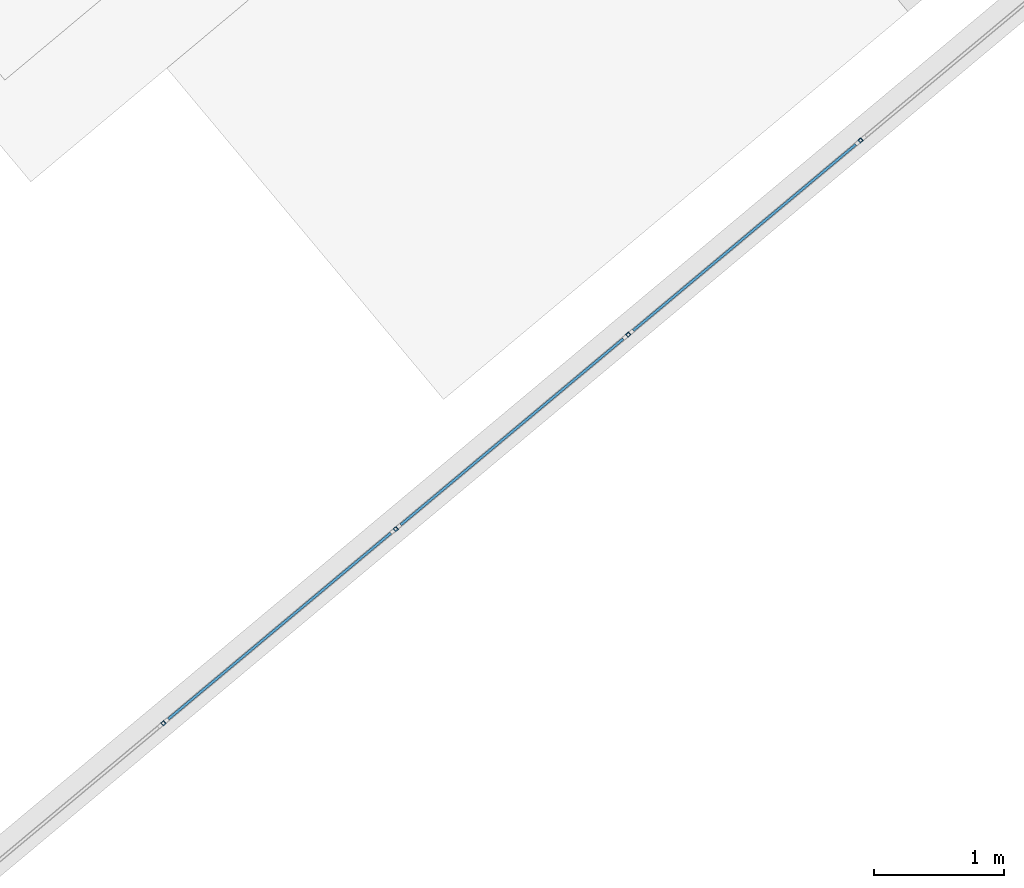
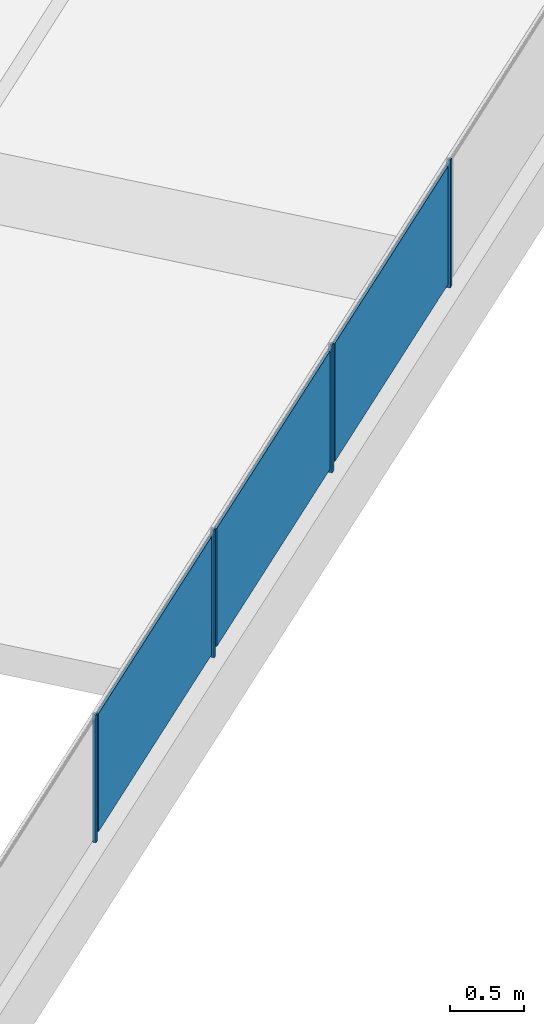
# One storey, part 22 of 67: 7 building element parts, 1 element without a shape of its own.
"""IFC4 building model written with IfcOpenShell, lengths in metres."""

from ifc_helpers import new_model, entity, si_unit, converted_unit, derived_unit, direction, frame, origin_with_axes, place, context, subcontext, project, spatial, polygons, material, type_object, element, aggregate, save


model = new_model("IFC4")

# Units and contexts
model_context = context("Model", 3, precision=1e-05, world=origin_with_axes(), true_north=direction((0.0, 1.0)))
body_context = subcontext(model_context, "Body", "Model", "MODEL_VIEW")
ifc_project = project(units=[si_unit("LENGTHUNIT", "METRE"), si_unit("AREAUNIT", "SQUARE_METRE"), si_unit("VOLUMEUNIT", "CUBIC_METRE"), converted_unit("PLANEANGLEUNIT", "DEGREE", entity("IfcPlaneAngleMeasure", 0.0174532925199), si_unit("PLANEANGLEUNIT", "RADIAN"), dimensions=[0, 0, 0, 0, 0, 0, 0]), converted_unit("TIMEUNIT", "Year", entity("IfcTimeMeasure", 31556926.0), si_unit("TIMEUNIT", "SECOND"), dimensions=[0, 0, 1, 0, 0, 0, 0]), si_unit("MASSUNIT", "GRAM", prefix="KILO"), si_unit("THERMODYNAMICTEMPERATUREUNIT", "DEGREE_CELSIUS"), si_unit("LUMINOUSINTENSITYUNIT", "LUMEN"), si_unit("ENERGYUNIT", "JOULE", prefix="MEGA"), derived_unit("THERMALCONDUCTANCEUNIT", [(si_unit("POWERUNIT", "WATT"), 1), (si_unit("LENGTHUNIT", "METRE"), -1), (si_unit("THERMODYNAMICTEMPERATUREUNIT", "KELVIN"), -1)]), derived_unit("SPECIFICHEATCAPACITYUNIT", [(si_unit("ENERGYUNIT", "JOULE"), 1), (si_unit("MASSUNIT", "GRAM", prefix="KILO"), -1), (si_unit("THERMODYNAMICTEMPERATUREUNIT", "KELVIN"), -1)]), derived_unit("MASSDENSITYUNIT", [(si_unit("MASSUNIT", "GRAM", prefix="KILO"), 1), (si_unit("VOLUMEUNIT", "CUBIC_METRE"), -1)])], contexts=[model_context])

# Site, building, storey
site_placement = place(None, frame((-0.00153261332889, -0.00661245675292, 0.0), z_axis=(0.0, 0.0, 1.0), x_axis=(1.0, 0.0, 0.0)))
site = spatial("IfcSite", under=ifc_project, at=site_placement, Name="Site", CompositionType="ELEMENT")
building_placement = place(site_placement, origin_with_axes())
building = spatial("IfcBuilding", under=site, at=building_placement, Name="Building", CompositionType="ELEMENT")
storey_placement = place(building_placement, frame((0.0, 0.0, -0.22), z_axis=(0.0, 0.0, 1.0), x_axis=(1.0, 0.0, 0.0)))
storey = spatial("IfcBuildingStorey", under=building, at=storey_placement, Name="EG", CompositionType="ELEMENT", Elevation=-0.22)

# Railing, building element parts
railing_type = type_object("IfcRailingType", Name="Geländerart", PredefinedType="NOTDEFINED")
railing_placement = place(storey_placement, frame((-12.1608341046, 23.557810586, 0.523948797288), z_axis=(0.0, 0.0, 1.0), x_axis=(1.0, 0.0, 0.0)))
railing = element("IfcRailing", 1, at=railing_placement, inside=storey, type_object=railing_type, Name="Geländer - 001", PredefinedType="NOTDEFINED")
ifc_material_1 = material(Name="Aluminium")
building_element_part_1_placement = place(railing_placement, origin_with_axes())
building_element_part_1 = element("IfcBuildingElementPart", 2, at=building_element_part_1_placement, material=ifc_material_1, Name="Aluminium", PredefinedType="NOTDEFINED", context=body_context, shape_type="Tessellation", body=[
    polygons([(13.9877905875, -21.9148453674, 0.0), (13.9685524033, -21.8918259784, 0.0), (13.9685524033, -21.8918259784, 1.06), (13.9877905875, -21.9148453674, 1.06), (13.9647711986, -21.9340835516, 0.0), (13.9455330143, -21.9110641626, 0.0), (13.9807476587, -21.9142151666, 0.0), (13.9679222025, -21.8988689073, 0.0), (13.9525759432, -21.9116943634, 0.0), (13.9654013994, -21.9270406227, 0.0), (13.9455330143, -21.9110641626, 1.06), (13.9647711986, -21.9340835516, 1.06), (13.9807476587, -21.9142151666, 1.06), (13.9654013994, -21.9270406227, 1.06), (13.9525759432, -21.9116943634, 1.06), (13.9679222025, -21.8988689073, 1.06)], [[[1, 2, 3, 4]], [[1, 5, 6, 2], [7, 8, 9, 10]], [[2, 6, 11, 3]], [[4, 3, 11, 12], [13, 14, 15, 16]], [[5, 1, 4, 12]], [[6, 5, 12, 11]], [[8, 7, 13, 16]], [[9, 8, 16, 15]], [[10, 9, 15, 14]], [[7, 10, 14, 13]]], closed=True),
])
ifc_material_2 = material(Name="Zaun")
building_element_part_2_placement = place(railing_placement, origin_with_axes())
building_element_part_2 = element("IfcBuildingElementPart", 3, at=building_element_part_2_placement, material=ifc_material_2, Name="Zaun", PredefinedType="NOTDEFINED", context=body_context, shape_type="Tessellation", body=[
    polygons([(15.7127951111, -20.4406118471, 0.05), (13.9986147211, -21.873217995, 0.05), (13.9986147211, -21.873217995, 1.03), (15.7127951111, -20.4406118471, 1.03), (14.0114401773, -21.8885642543, 0.05), (15.7256205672, -20.4559581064, 0.05), (14.0114401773, -21.8885642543, 1.03), (15.7256205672, -20.4559581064, 1.03)], [[[1, 2, 3, 4]], [[5, 2, 1, 6]], [[7, 3, 2, 5]], [[4, 3, 7, 8]], [[1, 4, 8, 6]], [[7, 5, 6, 8]]], closed=True),
])
building_element_part_3_placement = place(railing_placement, origin_with_axes())
building_element_part_3 = element("IfcBuildingElementPart", 4, at=building_element_part_3_placement, material=ifc_material_1, Name="Aluminium", PredefinedType="NOTDEFINED", context=body_context, shape_type="Tessellation", body=[
    polygons([(15.778702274, -20.4181119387, 0.0), (15.7594640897, -20.3950925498, 0.0), (15.7594640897, -20.3950925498, 1.06), (15.778702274, -20.4181119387, 1.06), (15.755682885, -20.437350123, 0.0), (15.7364447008, -20.414330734, 0.0), (15.7716593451, -20.4174817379, 0.0), (15.758833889, -20.4021354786, 0.0), (15.7434876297, -20.4149609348, 0.0), (15.7563130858, -20.4303071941, 0.0), (15.7364447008, -20.414330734, 1.06), (15.755682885, -20.437350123, 1.06), (15.7716593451, -20.4174817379, 1.06), (15.7563130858, -20.4303071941, 1.06), (15.7434876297, -20.4149609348, 1.06), (15.758833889, -20.4021354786, 1.06)], [[[1, 2, 3, 4]], [[1, 5, 6, 2], [7, 8, 9, 10]], [[2, 6, 11, 3]], [[4, 3, 11, 12], [13, 14, 15, 16]], [[5, 1, 4, 12]], [[6, 5, 12, 11]], [[8, 7, 13, 16]], [[9, 8, 16, 15]], [[10, 9, 15, 14]], [[7, 10, 14, 13]]], closed=True),
])
building_element_part_4_placement = place(railing_placement, origin_with_axes())
building_element_part_4 = element("IfcBuildingElementPart", 5, at=building_element_part_4_placement, material=ifc_material_2, Name="Zaun", PredefinedType="NOTDEFINED", context=body_context, shape_type="Tessellation", body=[
    polygons([(17.5037067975, -18.9438784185, 0.05), (15.7895264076, -20.3764845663, 0.05), (15.7895264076, -20.3764845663, 1.03), (17.5037067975, -18.9438784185, 1.03), (15.8023518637, -20.3918308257, 0.05), (17.5165322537, -18.9592246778, 0.05), (15.8023518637, -20.3918308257, 1.03), (17.5165322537, -18.9592246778, 1.03)], [[[1, 2, 3, 4]], [[5, 2, 1, 6]], [[7, 3, 2, 5]], [[4, 3, 7, 8]], [[1, 4, 8, 6]], [[7, 5, 6, 8]]], closed=True),
])
building_element_part_5_placement = place(railing_placement, origin_with_axes())
building_element_part_5 = element("IfcBuildingElementPart", 6, at=building_element_part_5_placement, material=ifc_material_1, Name="Aluminium", PredefinedType="NOTDEFINED", context=body_context, shape_type="Tessellation", body=[
    polygons([(17.5696139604, -18.9213785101, 0.0), (17.5503757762, -18.8983591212, 0.0), (17.5503757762, -18.8983591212, 1.06), (17.5696139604, -18.9213785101, 1.06), (17.5465945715, -18.9406166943, 0.0), (17.5273563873, -18.9175973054, 0.0), (17.5625710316, -18.9207483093, 0.0), (17.5497455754, -18.90540205, 0.0), (17.5343993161, -18.9182275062, 0.0), (17.5472247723, -18.9335737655, 0.0), (17.5273563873, -18.9175973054, 1.06), (17.5465945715, -18.9406166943, 1.06), (17.5625710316, -18.9207483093, 1.06), (17.5472247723, -18.9335737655, 1.06), (17.5343993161, -18.9182275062, 1.06), (17.5497455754, -18.90540205, 1.06)], [[[1, 2, 3, 4]], [[1, 5, 6, 2], [7, 8, 9, 10]], [[2, 6, 11, 3]], [[4, 3, 11, 12], [13, 14, 15, 16]], [[5, 1, 4, 12]], [[6, 5, 12, 11]], [[8, 7, 13, 16]], [[9, 8, 16, 15]], [[10, 9, 15, 14]], [[7, 10, 14, 13]]], closed=True),
])
building_element_part_6_placement = place(railing_placement, origin_with_axes())
building_element_part_6 = element("IfcBuildingElementPart", 7, at=building_element_part_6_placement, material=ifc_material_2, Name="Zaun", PredefinedType="NOTDEFINED", context=body_context, shape_type="Tessellation", body=[
    polygons([(19.294618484, -17.4471449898, 0.05), (17.580438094, -18.8797511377, 0.05), (17.580438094, -18.8797511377, 1.03), (19.294618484, -17.4471449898, 1.03), (17.5932635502, -18.895097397, 0.05), (19.3074439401, -17.4624912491, 0.05), (17.5932635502, -18.895097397, 1.03), (19.3074439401, -17.4624912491, 1.03)], [[[1, 2, 3, 4]], [[5, 2, 1, 6]], [[7, 3, 2, 5]], [[4, 3, 7, 8]], [[1, 4, 8, 6]], [[7, 5, 6, 8]]], closed=True),
])
building_element_part_7_placement = place(railing_placement, origin_with_axes())
building_element_part_7 = element("IfcBuildingElementPart", 8, at=building_element_part_7_placement, material=ifc_material_1, Name="Aluminium", PredefinedType="NOTDEFINED", context=body_context, shape_type="Tessellation", body=[
    polygons([(19.3605256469, -17.4246450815, 0.0), (19.3412874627, -17.4016256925, 0.0), (19.3412874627, -17.4016256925, 1.06), (19.3605256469, -17.4246450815, 1.06), (19.3375062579, -17.4438832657, 0.0), (19.3182680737, -17.4208638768, 0.0), (19.353482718, -17.4240148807, 0.0), (19.3406572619, -17.4086686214, 0.0), (19.3253110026, -17.4214940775, 0.0), (19.3381364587, -17.4368403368, 0.0), (19.3182680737, -17.4208638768, 1.06), (19.3375062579, -17.4438832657, 1.06), (19.353482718, -17.4240148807, 1.06), (19.3381364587, -17.4368403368, 1.06), (19.3253110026, -17.4214940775, 1.06), (19.3406572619, -17.4086686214, 1.06)], [[[1, 2, 3, 4]], [[1, 5, 6, 2], [7, 8, 9, 10]], [[2, 6, 11, 3]], [[4, 3, 11, 12], [13, 14, 15, 16]], [[5, 1, 4, 12]], [[6, 5, 12, 11]], [[8, 7, 13, 16]], [[9, 8, 16, 15]], [[10, 9, 15, 14]], [[7, 10, 14, 13]]], closed=True),
])
aggregate(railing, [building_element_part_1, building_element_part_2, building_element_part_3, building_element_part_4, building_element_part_5, building_element_part_6, building_element_part_7])

save(model, "model.ifc")
